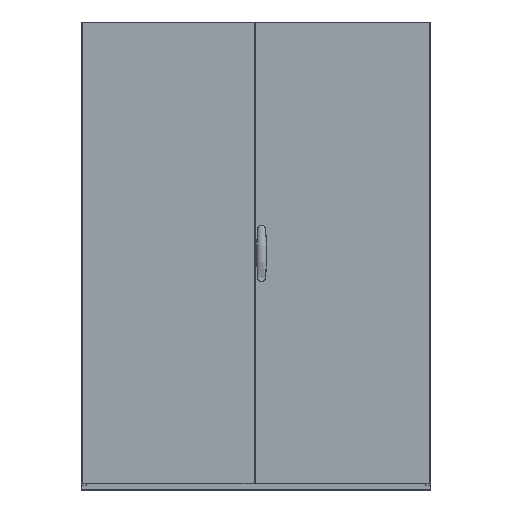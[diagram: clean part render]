
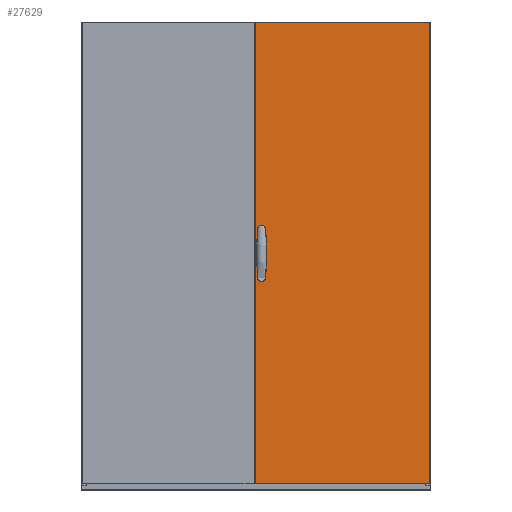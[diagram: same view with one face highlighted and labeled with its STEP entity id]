
A CAD part, top view. The second image highlights one B-rep face of the part: STEP entity #27629.
In plain terms, the highlighted planar face has unit normal (0, 0, 1) as drawn and (0, 0, -1) by its records, which use the part's own axes.
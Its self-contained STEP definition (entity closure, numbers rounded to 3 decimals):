
#359=CIRCLE('',#31197,2.6);
#360=CIRCLE('',#31198,2.6);
#2608=ORIENTED_EDGE('',*,*,#9610,.T.);
#2609=ORIENTED_EDGE('',*,*,#9611,.T.);
#2610=ORIENTED_EDGE('',*,*,#9612,.T.);
#2611=ORIENTED_EDGE('',*,*,#9613,.T.);
#2612=ORIENTED_EDGE('',*,*,#9614,.T.);
#2613=ORIENTED_EDGE('',*,*,#9615,.T.);
#2614=ORIENTED_EDGE('',*,*,#9616,.T.);
#2615=ORIENTED_EDGE('',*,*,#9617,.T.);
#2616=ORIENTED_EDGE('',*,*,#9618,.T.);
#2617=ORIENTED_EDGE('',*,*,#9619,.T.);
#2618=ORIENTED_EDGE('',*,*,#9620,.T.);
#2619=ORIENTED_EDGE('',*,*,#9621,.T.);
#2620=ORIENTED_EDGE('',*,*,#9622,.T.);
#2621=ORIENTED_EDGE('',*,*,#9623,.T.);
#2622=ORIENTED_EDGE('',*,*,#9624,.T.);
#2623=ORIENTED_EDGE('',*,*,#9625,.T.);
#2624=ORIENTED_EDGE('',*,*,#9626,.T.);
#2625=ORIENTED_EDGE('',*,*,#9627,.F.);
#2626=ORIENTED_EDGE('',*,*,#9628,.F.);
#2627=ORIENTED_EDGE('',*,*,#9629,.T.);
#2628=ORIENTED_EDGE('',*,*,#9630,.T.);
#2629=ORIENTED_EDGE('',*,*,#9631,.T.);
#9610=EDGE_CURVE('',#13270,#13271,#16071,.T.);
#9611=EDGE_CURVE('',#13271,#13272,#16072,.T.);
#9612=EDGE_CURVE('',#13272,#13273,#16073,.T.);
#9613=EDGE_CURVE('',#13273,#13274,#16074,.T.);
#9614=EDGE_CURVE('',#13274,#13275,#16075,.T.);
#9615=EDGE_CURVE('',#13275,#13276,#16076,.T.);
#9616=EDGE_CURVE('',#13276,#13277,#16077,.T.);
#9617=EDGE_CURVE('',#13277,#13278,#16078,.T.);
#9618=EDGE_CURVE('',#13278,#13279,#16079,.T.);
#9619=EDGE_CURVE('',#13279,#13280,#16080,.T.);
#9620=EDGE_CURVE('',#13280,#13281,#16081,.T.);
#9621=EDGE_CURVE('',#13281,#13282,#16082,.T.);
#9622=EDGE_CURVE('',#13282,#13283,#16083,.T.);
#9623=EDGE_CURVE('',#13283,#13284,#16084,.T.);
#9624=EDGE_CURVE('',#13284,#13285,#16085,.T.);
#9625=EDGE_CURVE('',#13285,#13270,#16086,.T.);
#9626=EDGE_CURVE('',#13286,#13287,#16087,.T.);
#9627=EDGE_CURVE('',#13288,#13287,#16088,.T.);
#9628=EDGE_CURVE('',#13289,#13288,#16089,.T.);
#9629=EDGE_CURVE('',#13289,#13286,#16090,.T.);
#9630=EDGE_CURVE('',#13290,#13290,#359,.T.);
#9631=EDGE_CURVE('',#13291,#13291,#360,.T.);
#13270=VERTEX_POINT('',#42044);
#13271=VERTEX_POINT('',#42045);
#13272=VERTEX_POINT('',#42047);
#13273=VERTEX_POINT('',#42049);
#13274=VERTEX_POINT('',#42051);
#13275=VERTEX_POINT('',#42053);
#13276=VERTEX_POINT('',#42055);
#13277=VERTEX_POINT('',#42057);
#13278=VERTEX_POINT('',#42059);
#13279=VERTEX_POINT('',#42061);
#13280=VERTEX_POINT('',#42063);
#13281=VERTEX_POINT('',#42065);
#13282=VERTEX_POINT('',#42067);
#13283=VERTEX_POINT('',#42069);
#13284=VERTEX_POINT('',#42071);
#13285=VERTEX_POINT('',#42073);
#13286=VERTEX_POINT('',#42076);
#13287=VERTEX_POINT('',#42077);
#13288=VERTEX_POINT('',#42079);
#13289=VERTEX_POINT('',#42081);
#13290=VERTEX_POINT('',#42084);
#13291=VERTEX_POINT('',#42086);
#16071=LINE('',#42043,#19584);
#16072=LINE('',#42046,#19585);
#16073=LINE('',#42048,#19586);
#16074=LINE('',#42050,#19587);
#16075=LINE('',#42052,#19588);
#16076=LINE('',#42054,#19589);
#16077=LINE('',#42056,#19590);
#16078=LINE('',#42058,#19591);
#16079=LINE('',#42060,#19592);
#16080=LINE('',#42062,#19593);
#16081=LINE('',#42064,#19594);
#16082=LINE('',#42066,#19595);
#16083=LINE('',#42068,#19596);
#16084=LINE('',#42070,#19597);
#16085=LINE('',#42072,#19598);
#16086=LINE('',#42074,#19599);
#16087=LINE('',#42075,#19600);
#16088=LINE('',#42078,#19601);
#16089=LINE('',#42080,#19602);
#16090=LINE('',#42082,#19603);
#19584=VECTOR('',#34408,1000.);
#19585=VECTOR('',#34409,1000.);
#19586=VECTOR('',#34410,1000.);
#19587=VECTOR('',#34411,1000.);
#19588=VECTOR('',#34412,1000.);
#19589=VECTOR('',#34413,1000.);
#19590=VECTOR('',#34414,1000.);
#19591=VECTOR('',#34415,1000.);
#19592=VECTOR('',#34416,1000.);
#19593=VECTOR('',#34417,1000.);
#19594=VECTOR('',#34418,1000.);
#19595=VECTOR('',#34419,1000.);
#19596=VECTOR('',#34420,1000.);
#19597=VECTOR('',#34421,1000.);
#19598=VECTOR('',#34422,1000.);
#19599=VECTOR('',#34423,1000.);
#19600=VECTOR('',#34424,1000.);
#19601=VECTOR('',#34425,1000.);
#19602=VECTOR('',#34426,1000.);
#19603=VECTOR('',#34427,1000.);
#22829=EDGE_LOOP('',(#2608,#2609,#2610,#2611,#2612,#2613,#2614,#2615,#2616,
#2617,#2618,#2619,#2620,#2621,#2622,#2623));
#22830=EDGE_LOOP('',(#2624,#2625,#2626,#2627));
#22831=EDGE_LOOP('',(#2628));
#22832=EDGE_LOOP('',(#2629));
#24627=FACE_BOUND('',#22829,.T.);
#24628=FACE_BOUND('',#22830,.T.);
#24629=FACE_BOUND('',#22831,.T.);
#24630=FACE_BOUND('',#22832,.T.);
#26257=PLANE('',#31196);
#27629=ADVANCED_FACE('',(#24627,#24628,#24629,#24630),#26257,.F.);
#31196=AXIS2_PLACEMENT_3D('',#42042,#34406,#34407);
#31197=AXIS2_PLACEMENT_3D('',#42083,#34428,#34429);
#31198=AXIS2_PLACEMENT_3D('',#42085,#34430,#34431);
#34406=DIRECTION('',(0.,0.,1.));
#34407=DIRECTION('',(1.,0.,0.));
#34408=DIRECTION('',(0.,-1.,0.));
#34409=DIRECTION('',(0.342,-0.94,0.));
#34410=DIRECTION('',(1.,0.,0.));
#34411=DIRECTION('',(0.,1.,0.));
#34412=DIRECTION('',(1.,0.,0.));
#34413=DIRECTION('',(0.,-1.,0.));
#34414=DIRECTION('',(1.,0.,0.));
#34415=DIRECTION('',(0.342,0.94,0.));
#34416=DIRECTION('',(0.,1.,0.));
#34417=DIRECTION('',(-0.342,0.94,0.));
#34418=DIRECTION('',(-1.,0.,0.));
#34419=DIRECTION('',(0.,-1.,0.));
#34420=DIRECTION('',(-1.,0.,0.));
#34421=DIRECTION('',(0.,1.,0.));
#34422=DIRECTION('',(-1.,0.,0.));
#34423=DIRECTION('',(-0.342,-0.94,0.));
#34424=DIRECTION('',(-1.,0.,0.));
#34425=DIRECTION('',(0.,-1.,0.));
#34426=DIRECTION('',(-1.,0.,0.));
#34427=DIRECTION('',(0.,-1.,0.));
#34428=DIRECTION('',(0.,0.,1.));
#34429=DIRECTION('',(1.,0.,0.));
#34430=DIRECTION('',(0.,0.,1.));
#34431=DIRECTION('',(1.,0.,0.));
#42042=CARTESIAN_POINT('',(299.,1582.,-16.8));
#42043=CARTESIAN_POINT('',(265.45,856.256,-16.8));
#42044=CARTESIAN_POINT('',(265.45,856.256,-16.8));
#42045=CARTESIAN_POINT('',(265.45,725.744,-16.8));
#42046=CARTESIAN_POINT('',(265.45,725.744,-16.8));
#42047=CARTESIAN_POINT('',(267.45,720.25,-16.8));
#42048=CARTESIAN_POINT('',(267.45,720.25,-16.8));
#42049=CARTESIAN_POINT('',(272.7,720.25,-16.8));
#42050=CARTESIAN_POINT('',(272.7,720.25,-16.8));
#42051=CARTESIAN_POINT('',(272.7,728.,-16.8));
#42052=CARTESIAN_POINT('',(272.7,728.,-16.8));
#42053=CARTESIAN_POINT('',(283.7,728.,-16.8));
#42054=CARTESIAN_POINT('',(283.7,728.,-16.8));
#42055=CARTESIAN_POINT('',(283.7,720.25,-16.8));
#42056=CARTESIAN_POINT('',(283.7,720.25,-16.8));
#42057=CARTESIAN_POINT('',(288.95,720.25,-16.8));
#42058=CARTESIAN_POINT('',(288.95,720.25,-16.8));
#42059=CARTESIAN_POINT('',(290.95,725.744,-16.8));
#42060=CARTESIAN_POINT('',(290.95,725.744,-16.8));
#42061=CARTESIAN_POINT('',(290.95,856.256,-16.8));
#42062=CARTESIAN_POINT('',(290.95,856.256,-16.8));
#42063=CARTESIAN_POINT('',(288.95,861.75,-16.8));
#42064=CARTESIAN_POINT('',(288.95,861.75,-16.8));
#42065=CARTESIAN_POINT('',(283.7,861.75,-16.8));
#42066=CARTESIAN_POINT('',(283.7,861.75,-16.8));
#42067=CARTESIAN_POINT('',(283.7,854.,-16.8));
#42068=CARTESIAN_POINT('',(283.7,854.,-16.8));
#42069=CARTESIAN_POINT('',(272.7,854.,-16.8));
#42070=CARTESIAN_POINT('',(272.7,854.,-16.8));
#42071=CARTESIAN_POINT('',(272.7,861.75,-16.8));
#42072=CARTESIAN_POINT('',(272.7,861.75,-16.8));
#42073=CARTESIAN_POINT('',(267.45,861.75,-16.8));
#42074=CARTESIAN_POINT('',(267.45,861.75,-16.8));
#42075=CARTESIAN_POINT('',(299.,0.,-16.8));
#42076=CARTESIAN_POINT('',(299.,0.,-16.8));
#42077=CARTESIAN_POINT('',(-299.,0.,-16.8));
#42078=CARTESIAN_POINT('',(-299.,1582.,-16.8));
#42079=CARTESIAN_POINT('',(-299.,1582.,-16.8));
#42080=CARTESIAN_POINT('',(299.,1582.,-16.8));
#42081=CARTESIAN_POINT('',(299.,1582.,-16.8));
#42082=CARTESIAN_POINT('',(299.,1582.,-16.8));
#42083=CARTESIAN_POINT('',(278.2,861.,-16.8));
#42084=CARTESIAN_POINT('',(280.8,861.,-16.8));
#42085=CARTESIAN_POINT('',(278.2,721.,-16.8));
#42086=CARTESIAN_POINT('',(280.8,721.,-16.8));
